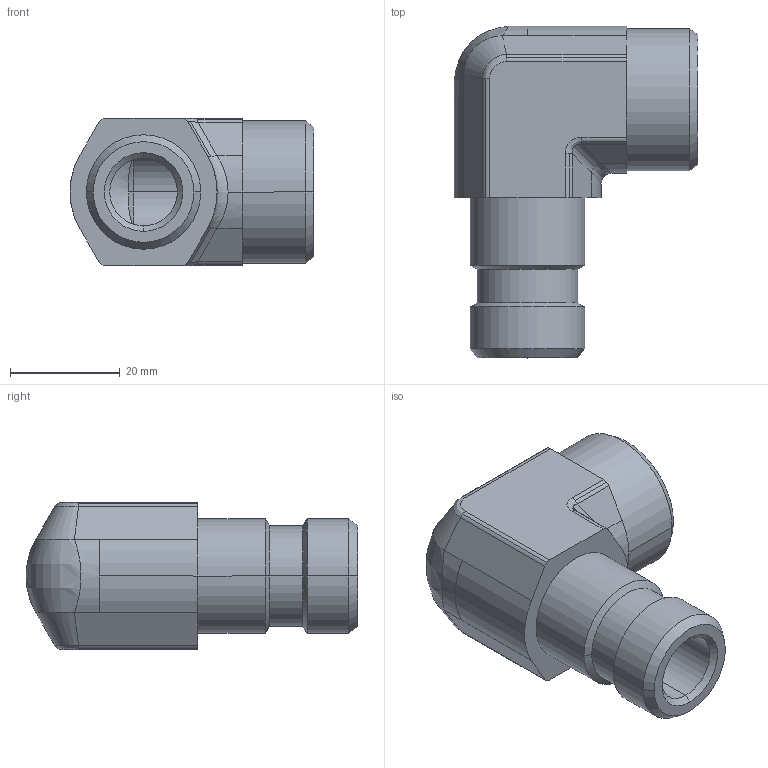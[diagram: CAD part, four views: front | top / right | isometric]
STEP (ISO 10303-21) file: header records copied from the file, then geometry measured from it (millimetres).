
FILE_DESCRIPTION((''),'2;1');
FILE_NAME('106109.stp','2007-10-31T14:50:39',(''),(''),'AutoCAD STEP 2000i','AutoCAD 2000i',', , ');
FILE_SCHEMA(('CONFIG_CONTROL_DESIGN'));
Length unit declared in the file: millimetre
Products named in the file (2): 106109.0; 3090#0
Assembly tree (1 placements, depth 2):
  106109.0
    3090#0
Bounding box: 44.38 x 60.38 x 26.75 mm (x, y, z)
Volume: 25426.4 mm3; surface area: 10133.7 mm2
Topology: 1 solids, 1 shells, 88 faces, 210 edges, 127 vertices
Faces by surface type: cylinder 42, plane 19, cone 15, bspline 12
Entity records: 3475 total; most frequent: CARTESIAN_POINT 1324, DIRECTION 448, ORIENTED_EDGE 420, EDGE_CURVE 210, AXIS2_PLACEMENT_3D 181, VERTEX_POINT 127, CIRCLE 93, EDGE_LOOP 93
